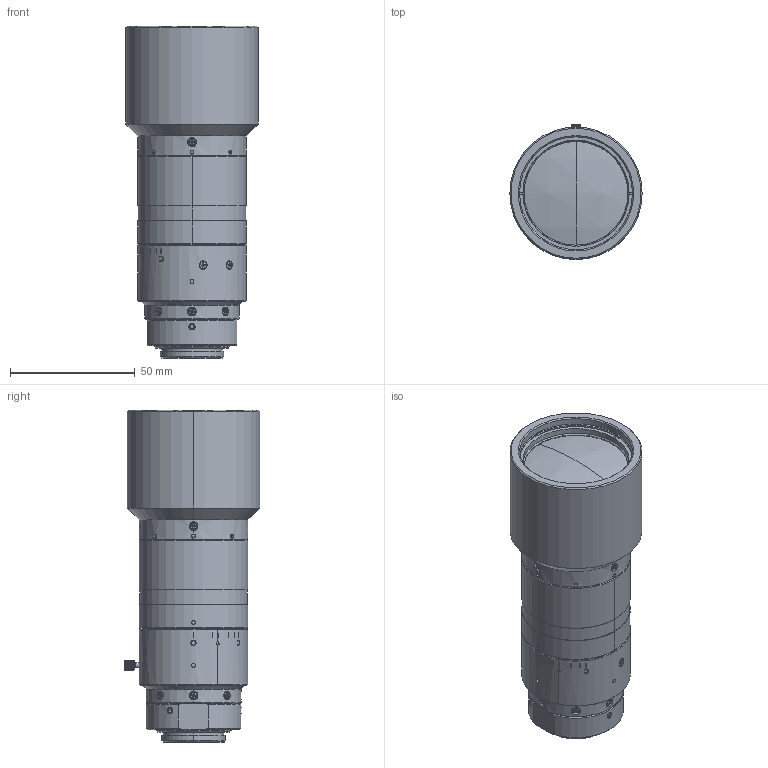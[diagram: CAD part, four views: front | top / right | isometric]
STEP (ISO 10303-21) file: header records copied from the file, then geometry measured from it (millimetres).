
FILE_DESCRIPTION (( 'STEP AP214' ), '1' );
FILE_NAME ('MML06-SR110VI-18C.STEP', '2026-02-17T06:24:29', ( '' ), ( '' ), 'SwSTEP 2.0', 'SolidWorks 2025', '' );
FILE_SCHEMA (( 'AUTOMOTIVE_DESIGN' ));
Length unit declared in the file: millimetre
Products named in the file (1): MML06-SR110VI-18C
Bounding box: 53 x 54.25 x 132.95 mm (x, y, z)
Volume: 197415 mm3; surface area: 27948 mm2
Topology: 1 solids, 27 shells, 1329 faces, 3270 edges, 2056 vertices
Faces by surface type: plane 554, cone 331, cylinder 264, bspline 94, torus 58, sphere 28
Entity records: 49977 total; most frequent: CARTESIAN_POINT 20434, ORIENTED_EDGE 6484, DIRECTION 5684, EDGE_CURVE 3242, AXIS2_PLACEMENT_3D 2360, VERTEX_POINT 2056, EDGE_LOOP 1422, FACE_OUTER_BOUND 1329
